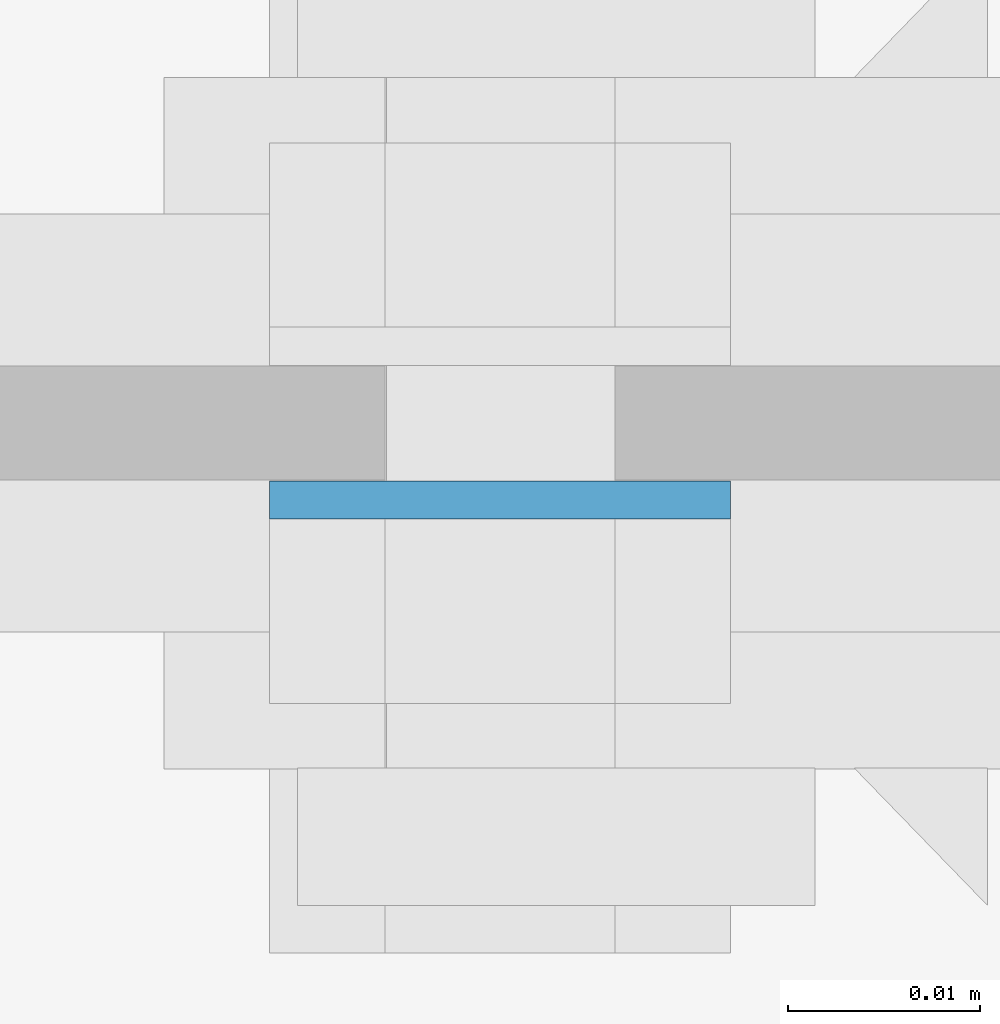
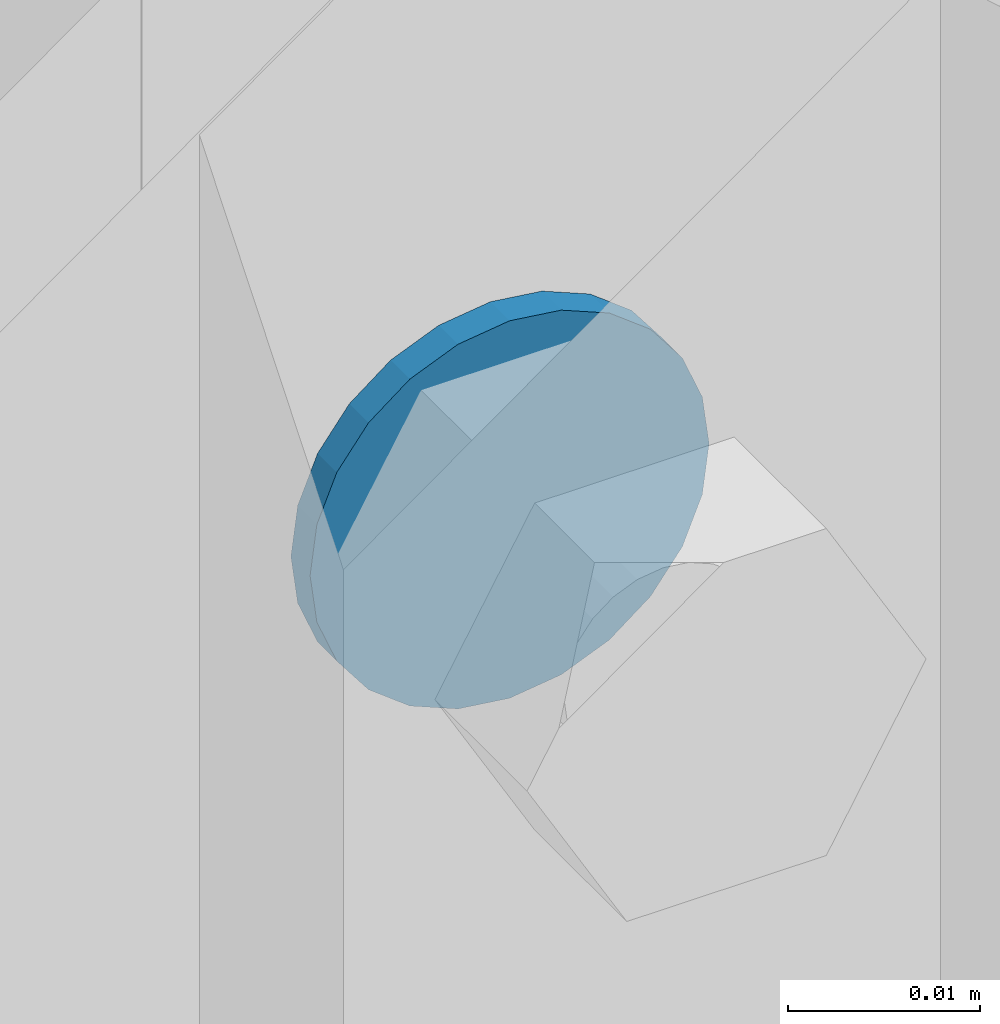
# One storey, part 120 of 251: 1 mechanical fastener.
"""IFC4 building model written with IfcOpenShell, lengths in metres."""

from ifc_helpers import new_model, si_unit, frame, origin_with_axes, place, context, project, spatial, polyline, outline, extrude, type_object, element, save


model = new_model("IFC4")

# Units and contexts
model_context = context("Model", 3, precision=1e-05, world=origin_with_axes())
ifc_project = project(units=[si_unit("LENGTHUNIT", "METRE"), si_unit("AREAUNIT", "SQUARE_METRE"), si_unit("VOLUMEUNIT", "CUBIC_METRE"), si_unit("MASSUNIT", "GRAM", prefix="KILO"), si_unit("TIMEUNIT", "SECOND"), si_unit("PLANEANGLEUNIT", "RADIAN"), si_unit("SOLIDANGLEUNIT", "STERADIAN"), si_unit("THERMODYNAMICTEMPERATUREUNIT", "DEGREE_CELSIUS")], contexts=[model_context])

# Site, building, storey
placement_1 = place(None, origin_with_axes())
site = spatial("IfcSite", under=ifc_project, at=placement_1, Name="Italia", CompositionType="ELEMENT")
building = spatial("IfcBuilding", under=site, at=placement_1, Name="Deposito", CompositionType="ELEMENT")
storey = spatial("IfcBuildingStorey", under=building, at=placement_1, Name="Storey 0", CompositionType="ELEMENT", Elevation=0.0)

# Mechanical fastener
mechanical_fastener_type = type_object("IfcMechanicalFastenerType", Name="Collegamento -071_-072", PredefinedType="BOLT")
placement_2 = place(placement_1, origin_with_axes())
mechanical_fastener_placement = place(placement_2, origin_with_axes())
element("IfcMechanicalFastener", 1, at=mechanical_fastener_placement, inside=storey, type_object=mechanical_fastener_type, Name="Collegamento -071_-072", NominalDiameter=0.024, context=model_context, shape_type="SweptSolid", body=[
    extrude(outline(polyline([(0.0, 0.0), (-0.000409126, -0.00310564), (-0.00160789, -0.00600004), (-0.00351477, -0.00848532), (-0.00600004, -0.0103922), (-0.00889444, -0.011591), (-0.0120001, -0.0120001), (-0.0151057, -0.011591), (-0.0180001, -0.0103922), (-0.0204854, -0.00848532), (-0.0223923, -0.00600004), (-0.023591, -0.00310564), (-0.0240002, 0.0), (-0.023591, 0.00310564), (-0.0223923, 0.00600004), (-0.0204854, 0.00848532), (-0.0180001, 0.0103922), (-0.0151057, 0.011591), (-0.0120001, 0.0120001), (-0.00889444, 0.011591), (-0.00600004, 0.0103922), (-0.00351477, 0.00848532), (-0.00160789, 0.00600004), (-0.000409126, 0.00310564), (0.0, 0.0)])), frame((6.01, 9.995, 6.85518), z_axis=(0.0, 1.0, 0.0), x_axis=(-1.0, 0.0, 0.0)), (0.0, 0.0, 1.0), 0.00200081),
])

save(model, "model.ifc")
